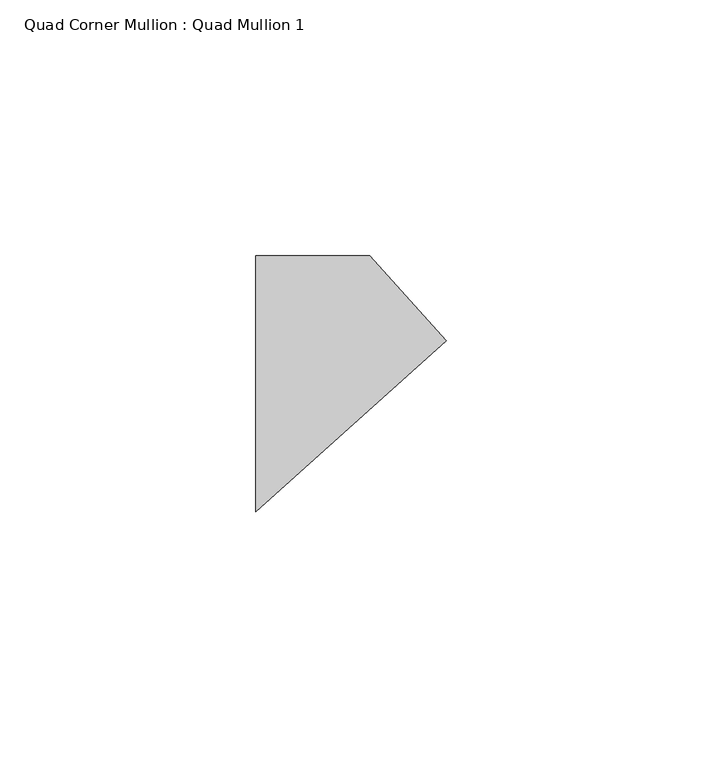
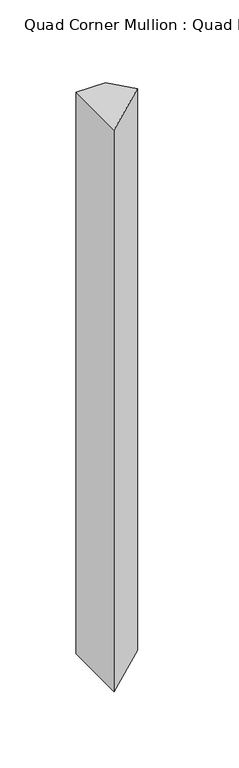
"""IFC4 building model written with IfcOpenShell, lengths in millimetres: member geometry, Quad Corner Mullion : Quad Mullion 1."""

from ifc_helpers import new_model, si_unit, frame, origin, place, context, project, spatial, polyline, outline, extrude, source, transform, mapped, element, save


def quad_corner_mullion_quad_mullion_1_185f4ff9(model_context):
    return source(origin(), model_context, "Body", "SweptSolid", [
        extrude(outline(polyline([(26.0265241, 8.4565303), (-11.1307171, -25.0), (-11.1307171, 25.0), (11.1307171, 25.0), (26.0265241, 8.4565303)])), frame((0.0, 0.0, -450.0), z_axis=(0.0, 0.0, 1.0), x_axis=(1.0, 0.0, 0.0)), (0.0, 0.0, 1.0), 450.0),
    ])


if __name__ == "__main__":
    model = new_model("IFC4")
    model_context = context("Model", 3, world=origin())
    ifc_project = project(units=[si_unit("LENGTHUNIT", "METRE", prefix="MILLI")], contexts=[model_context])
    site = spatial("IfcSite", under=ifc_project)
    building = spatial("IfcBuilding", under=site)
    placement = place(None, origin())
    quad_corner_mullion_quad_mullion_1_shape = quad_corner_mullion_quad_mullion_1_185f4ff9(model_context)
    element("IfcMember", 1, ObjectType="Quad Corner Mullion : Quad Mullion 1", at=placement, inside=building, context=model_context, shape_type="MappedRepresentation", body=[
        mapped(quad_corner_mullion_quad_mullion_1_shape, transform((0.0, 0.0, 0.0), x_axis=(1.0, 0.0, 0.0), y_axis=(0.0, 1.0, 0.0), z_axis=(0.0, 0.0, 1.0))),
    ])
    save(model, "model.ifc")
